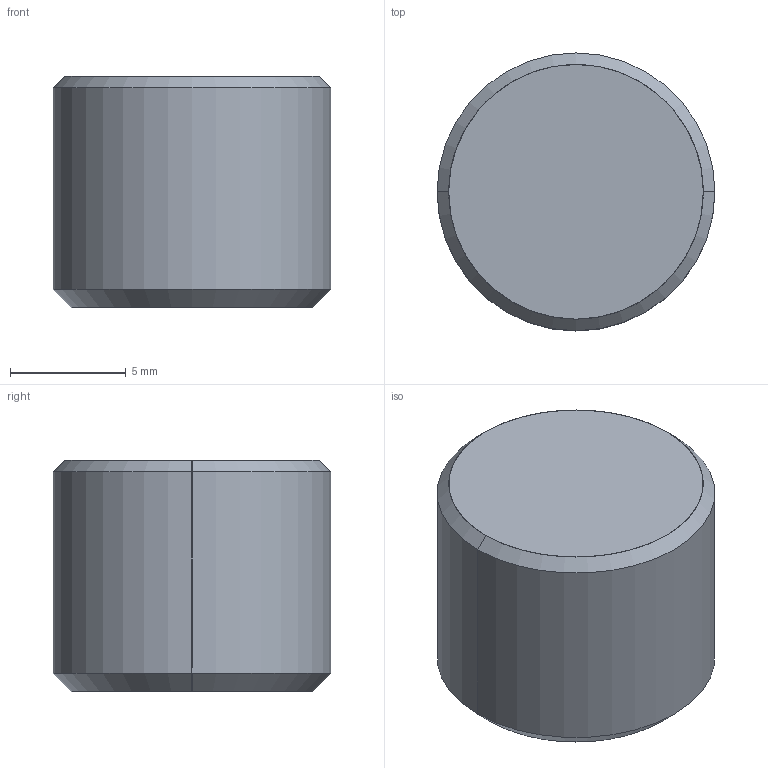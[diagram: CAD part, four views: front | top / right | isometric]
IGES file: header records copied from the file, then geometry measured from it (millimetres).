
Start section: SolidWorks IGES file using analytic representation for surfaces
Global section: file name: X:\11_SW2020-Inv2020\00_全2021-11新製品まで\s\SRP-120\srp-120.IGS; native system: SolidWorks 2020; preprocessor: SolidWorks 2020; author: ImaoCorp; date: 211025.132823; units: millimetre
Bounding box: 12 x 12 x 10 mm (x, y, z)
Surface area: 651.9 mm2 (no closed solid volume)
Topology: 0 solids, 0 shells, 11 faces, 160 edges, 160 vertices
Faces by surface type: revolution 8, bspline 3
